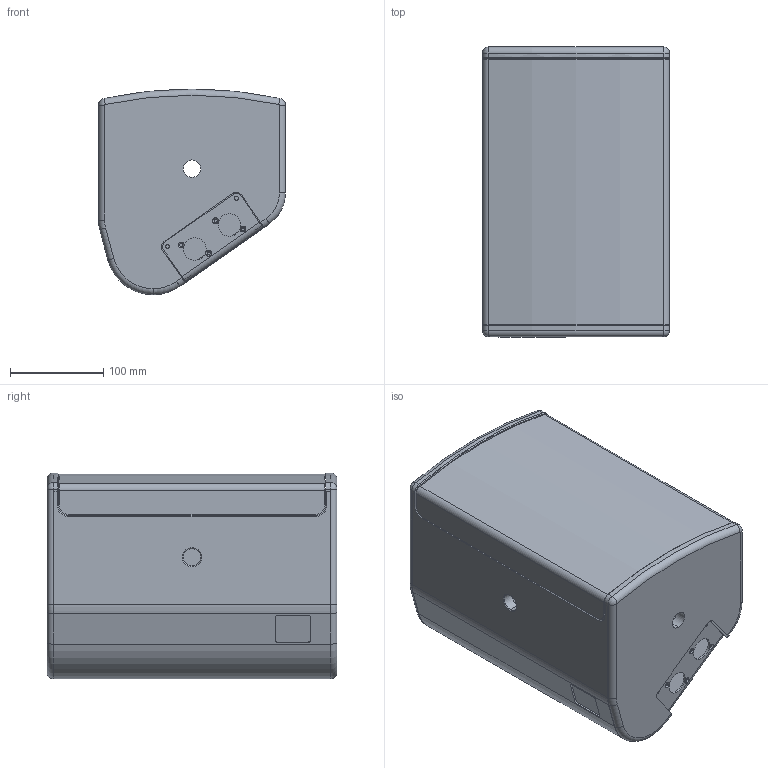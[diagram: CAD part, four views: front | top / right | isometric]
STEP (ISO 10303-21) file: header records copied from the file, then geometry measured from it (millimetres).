
FILE_DESCRIPTION (( 'STEP AP203' ), '1' );
FILE_NAME ('SEEBURG_X1.STEP', '2018-09-20T08:28:07', ( 'Michl' ), ( '' ), 'SwSTEP 2.0', 'SolidWorks 2009', '' );
FILE_SCHEMA (( 'CONFIG_CONTROL_DESIGN' ));
Length unit declared in the file: millimetre
Products named in the file (1): SEEBURG_X1
Bounding box: 200 x 310 x 220 mm (x, y, z)
Volume: 2425889.6 mm3; surface area: 628015.5 mm2
Topology: 5 solids, 5 shells, 271 faces, 693 edges, 433 vertices
Faces by surface type: plane 123, cylinder 110, cone 24, torus 14
Entity records: 8321 total; most frequent: DIRECTION 1500, CARTESIAN_POINT 1413, ORIENTED_EDGE 1386, EDGE_CURVE 693, AXIS2_PLACEMENT_3D 536, VERTEX_POINT 433, LINE 428, VECTOR 428
